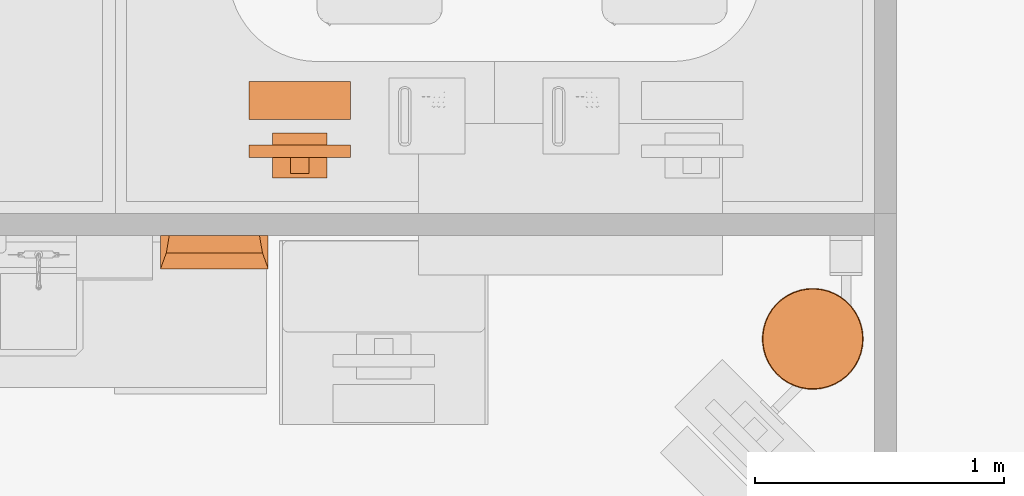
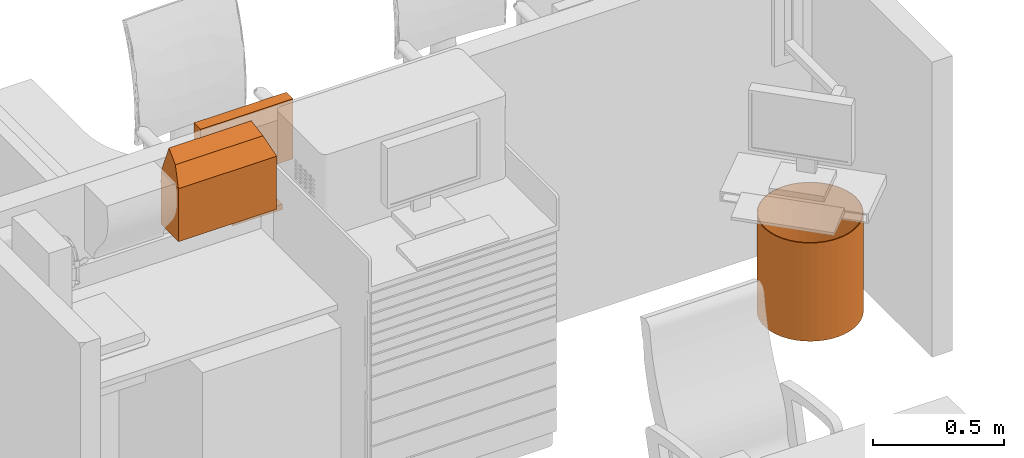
# One storey, part 129 of 142: 3 proxies.
"""IFC2X3 building model written with IfcOpenShell, lengths in feet."""

from ifc_helpers import new_model, entity, si_unit, converted_unit, derived_unit, direction, frame, frame_2d, origin, place, context, subcontext, project, spatial, circle, hollow_circle, extrude, faceted_brep, source, transform, mapped, type_object, type_shapes, element, save


model = new_model("IFC2X3")

# Units and contexts
model_context = context("Model", 3, precision=0.0001, world=origin(), true_north=direction((6.12303176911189e-17, 1.0)))
body_context = subcontext(model_context, "Body", "Model", "MODEL_VIEW")
ifc_project = project(units=[converted_unit("LENGTHUNIT", "FOOT", entity("IfcRatioMeasure", 0.3048), si_unit("LENGTHUNIT", "METRE"), dimensions=[1, 0, 0, 0, 0, 0, 0]), converted_unit("AREAUNIT", "SQUARE FOOT", entity("IfcRatioMeasure", 0.09290304), si_unit("AREAUNIT", "SQUARE_METRE"), dimensions=[2, 0, 0, 0, 0, 0, 0]), converted_unit("VOLUMEUNIT", "CUBIC FOOT", entity("IfcRatioMeasure", 0.028316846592), si_unit("VOLUMEUNIT", "CUBIC_METRE"), dimensions=[3, 0, 0, 0, 0, 0, 0]), converted_unit("PLANEANGLEUNIT", "DEGREE", entity("IfcRatioMeasure", 0.0174532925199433), si_unit("PLANEANGLEUNIT", "RADIAN"), dimensions=[0, 0, 0, 0, 0, 0, 0]), si_unit("MASSUNIT", "GRAM", prefix="KILO"), derived_unit("MASSDENSITYUNIT", [(si_unit("MASSUNIT", "GRAM", prefix="KILO"), 1), (si_unit("LENGTHUNIT", "METRE"), -3)]), si_unit("TIMEUNIT", "SECOND"), si_unit("FREQUENCYUNIT", "HERTZ"), si_unit("THERMODYNAMICTEMPERATUREUNIT", "DEGREE_CELSIUS"), derived_unit("THERMALTRANSMITTANCEUNIT", [(si_unit("MASSUNIT", "GRAM", prefix="KILO"), 1), (si_unit("THERMODYNAMICTEMPERATUREUNIT", "KELVIN"), -1), (si_unit("TIMEUNIT", "SECOND"), -3)]), derived_unit("VOLUMETRICFLOWRATEUNIT", [(si_unit("LENGTHUNIT", "METRE"), 3), (si_unit("TIMEUNIT", "SECOND"), -1)]), si_unit("ELECTRICCURRENTUNIT", "AMPERE"), si_unit("ELECTRICVOLTAGEUNIT", "VOLT"), si_unit("POWERUNIT", "WATT"), si_unit("FORCEUNIT", "NEWTON"), si_unit("ILLUMINANCEUNIT", "LUX"), si_unit("LUMINOUSFLUXUNIT", "LUMEN"), si_unit("LUMINOUSINTENSITYUNIT", "CANDELA"), derived_unit("USERDEFINED", [(si_unit("MASSUNIT", "GRAM", prefix="KILO"), -1), (si_unit("LENGTHUNIT", "METRE"), -2), (si_unit("TIMEUNIT", "SECOND"), 3), (si_unit("LUMINOUSFLUXUNIT", "LUMEN"), 1)]), derived_unit("LINEARVELOCITYUNIT", [(si_unit("LENGTHUNIT", "METRE"), 1), (si_unit("TIMEUNIT", "SECOND"), -1)]), si_unit("PRESSUREUNIT", "PASCAL"), derived_unit("USERDEFINED", [(si_unit("LENGTHUNIT", "METRE"), -2), (si_unit("MASSUNIT", "GRAM", prefix="KILO"), 1), (si_unit("TIMEUNIT", "SECOND"), -2)])], contexts=[model_context])

# Site, building, storey, space
site_placement = place(None, origin())
site = spatial("IfcSite", under=ifc_project, at=site_placement, Name="Default", CompositionType="ELEMENT")
building_placement = place(site_placement, origin())
building = spatial("IfcBuilding", under=site, at=building_placement, Name="OUTPATIENT / PACT CLINIC (Ch. 265)", CompositionType="ELEMENT")
storey_placement = place(building_placement, origin())
storey = spatial("IfcBuildingStorey", under=building, at=storey_placement, Name="LEVEL 1", CompositionType="ELEMENT", Elevation=0.0)
space_1_placement = place(storey_placement, origin())
space_1 = spatial("IfcSpace", under=storey, at=space_1_placement, Name="WRTM1", CompositionType="ELEMENT", InteriorOrExteriorSpace="INTERNAL")

# Proxy
building_element_proxy_type_1 = type_object("IfcBuildingElementProxyType", Name="M1801 - Computer with Flat Panel Monitor", PredefinedType="NOTDEFINED")
shared_shape_1 = source(origin(), body_context, "Body", "Brep", [
    faceted_brep([(0.666666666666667, 0.5625, 0.0), (0.666666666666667, 0.5625, 0.0416666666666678), (0.666666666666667, 0.0624999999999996, 0.0833333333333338), (0.666666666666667, 0.0624999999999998, 0.0), (-0.666666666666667, 0.5625, 0.0), (-0.666666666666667, 0.0624999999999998, 0.0), (-0.666666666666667, 0.0624999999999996, 0.0833333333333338), (-0.666666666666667, 0.5625, 0.0416666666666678)], [[[0, 1, 2, 3]], [[4, 5, 6, 7]], [[3, 5, 4, 0]], [[2, 6, 5, 3]], [[1, 7, 6, 2]], [[0, 4, 7, 1]]]),
    faceted_brep([(0.666666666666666, -0.437223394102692, 1.41666666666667), (0.666666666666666, -0.271109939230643, 1.41666666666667), (-0.666666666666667, -0.271109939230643, 1.41666666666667), (-0.666666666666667, -0.437223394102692, 1.41666666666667), (0.666666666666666, -0.437223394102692, 0.500000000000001), (-0.666666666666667, -0.437223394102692, 0.500000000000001), (-0.666666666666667, -0.271109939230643, 0.500000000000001), (0.666666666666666, -0.271109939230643, 0.500000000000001), (-0.625, -0.271109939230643, 1.375), (-0.625, -0.271109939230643, 0.541666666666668), (0.625, -0.271109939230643, 0.541666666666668), (0.625, -0.271109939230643, 1.375), (0.625, -0.286812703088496, 1.375), (-0.625, -0.286812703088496, 1.375), (0.625, -0.286812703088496, 0.541666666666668), (-0.625, -0.286812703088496, 0.541666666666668)], [[[0, 1, 2, 3]], [[4, 5, 6, 7]], [[3, 5, 4, 0]], [[2, 6, 5, 3]], [[8, 9, 10, 11], [1, 7, 6, 2]], [[0, 4, 7, 1]], [[12, 13, 8, 11]], [[14, 10, 9, 15]], [[12, 14, 15, 13]], [[13, 15, 9, 8]], [[11, 10, 14, 12]]], outer=[[True], [True], [True], [True], [False, True], [True], [True], [True], [True], [True], [True]]),
    faceted_brep([(0.358011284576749, -0.111770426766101, 0.0833333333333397), (0.358011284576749, -0.708333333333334, 0.0833333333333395), (0.358011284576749, -0.708333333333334, 0.0), (0.358011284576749, -0.111770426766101, 0.0), (-0.358011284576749, -0.708333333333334, 0.0833333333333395), (-0.358011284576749, -0.111770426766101, 0.0833333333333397), (-0.358011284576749, -0.111770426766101, 0.0), (-0.358011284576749, -0.708333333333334, 0.0), (0.12128795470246, -0.645556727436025, 0.104166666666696), (-0.12128795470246, -0.645556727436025, 0.104166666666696), (-0.12128795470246, -0.645556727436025, 0.0833333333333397), (0.12128795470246, -0.645556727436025, 0.0833333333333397), (0.12128795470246, -0.645556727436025, 0.958333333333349), (-0.12128795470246, -0.645556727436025, 0.958333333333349), (0.12128795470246, -0.437223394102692, 0.958333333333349), (-0.12128795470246, -0.437223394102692, 0.958333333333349), (0.12128795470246, -0.437223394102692, 0.791666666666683), (-0.12128795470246, -0.437223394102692, 0.791666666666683), (0.12128795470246, -0.562223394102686, 0.791666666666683), (-0.12128795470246, -0.562223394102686, 0.791666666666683), (0.12128795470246, -0.562223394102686, 0.0833333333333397), (-0.12128795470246, -0.562223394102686, 0.0833333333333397)], [[[0, 1, 2, 3]], [[4, 5, 6, 7]], [[8, 9, 10, 11]], [[12, 13, 9, 8]], [[14, 15, 13, 12]], [[16, 17, 15, 14]], [[18, 19, 17, 16]], [[20, 21, 19, 18]], [[11, 10, 21, 20], [0, 5, 4, 1]], [[3, 6, 5, 0]], [[2, 7, 6, 3]], [[1, 4, 7, 2]], [[20, 18, 16, 14, 12, 8, 11]], [[10, 9, 13, 15, 17, 19, 21]]], outer=[[True], [True], [True], [True], [True], [True], [True], [True], [False, True], [True], [True], [True], [True], [True]]),
])
type_shapes(building_element_proxy_type_1, [shared_shape_1])
proxy_1_placement = place(space_1_placement, frame((421.794814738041, -888.24701739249, 2.49999999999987)))
element("IfcBuildingElementProxy", 1, at=proxy_1_placement, inside=space_1, type_object=building_element_proxy_type_1, Name="M1801 - Computer with Flat Panel Monitor:M1801 - Computer with Flat Panel Monitor", ObjectType="M1801 - Computer with Flat Panel Monitor", context=body_context, shape_type="MappedRepresentation", body=[
    mapped(shared_shape_1, transform((0.0, 0.0, 0.0), scale=1.0)),
])

# Space
space_2_placement = place(storey_placement, origin())
space_2 = spatial("IfcSpace", under=storey, at=space_2_placement, Name="RCA06", CompositionType="ELEMENT", InteriorOrExteriorSpace="INTERNAL")

# Proxies
building_element_proxy_type_2 = type_object("IfcBuildingElementProxyType", Name="F2000 - Basket, Wastepaper", PredefinedType="NOTDEFINED")
shared_shape_2 = source(origin(), body_context, "Body", "SweptSolid", [
    extrude(circle(Radius=0.666666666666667, at=frame_2d((0.0, -1.07702971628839e-15), x_axis=(1.0, 0.0))), origin(), (0.0, 0.0, 1.0), 0.0104166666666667),
    extrude(hollow_circle(Radius=0.666666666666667, WallThickness=0.0104166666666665, at=frame_2d((0.0, -1.07702971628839e-15), x_axis=(1.0, 0.0))), frame((0.0, 0.0, 0.0104166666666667)), (0.0, 0.0, 1.0), 1.48958333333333),
])
type_shapes(building_element_proxy_type_2, [shared_shape_2])
proxy_2_placement = place(space_2_placement, frame((428.546783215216, -891.070663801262, 0.0)))
element("IfcBuildingElementProxy", 2, at=proxy_2_placement, inside=space_2, type_object=building_element_proxy_type_2, Name="F2000 - Basket, Wastepaper:F2000 - Basket, Wastepaper", ObjectType="F2000 - Basket, Wastepaper", context=body_context, shape_type="MappedRepresentation", body=[
    mapped(shared_shape_2, transform((0.0, 0.0, 0.0), scale=1.0)),
])
building_element_proxy_type_3 = type_object("IfcBuildingElementProxyType", Name="A5108 - Waste Disposal Unit, Sharps 17\"x 13\"", PredefinedType="NOTDEFINED")
shared_shape_3 = source(origin(), body_context, "Body", "Brep", [
    faceted_brep([(0.70833333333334, 0.0, 0.0), (-0.708333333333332, 0.0, 0.0), (-0.708333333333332, 0.437500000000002, 0.0), (0.70833333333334, 0.437500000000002, 0.0), (0.70833333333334, 0.437500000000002, 0.810989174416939), (0.70833333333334, 0.0025667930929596, 0.810989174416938), (0.70833333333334, 0.0, 0.808422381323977), (-0.708333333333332, 0.437500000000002, 0.810989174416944), (-0.594042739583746, 0.437500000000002, 1.125), (0.594042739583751, 0.437500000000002, 1.125), (-0.708333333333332, 0.0, 0.808422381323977), (-0.708333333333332, 0.00256679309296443, 0.810989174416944), (0.632497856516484, 0.210923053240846, 1.01934543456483), (-0.632497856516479, 0.210923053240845, 1.01934543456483)], [[[0, 1, 2, 3]], [[0, 3, 4, 5, 6]], [[3, 2, 7, 8, 9, 4]], [[2, 1, 10, 11, 7]], [[1, 0, 6, 10]], [[10, 6, 5, 12, 13, 11]], [[12, 9, 8, 13]], [[5, 4, 9, 12]], [[8, 7, 11, 13]]]),
])
type_shapes(building_element_proxy_type_3, [shared_shape_3])
proxy_3_placement = place(storey_placement, frame((420.672108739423, -890.149658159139, 3.5)))
element("IfcBuildingElementProxy", 3, at=proxy_3_placement, inside=storey, type_object=building_element_proxy_type_3, Name="A5108 - Waste Disposal Unit, Sharps1:A5108 - Waste Disposal Unit, Sharps 17\"x 13\"", ObjectType="A5108 - Waste Disposal Unit, Sharps 17\"x 13\"", context=body_context, shape_type="MappedRepresentation", body=[
    mapped(shared_shape_3, transform((0.0, 0.0, 0.0), scale=1.0)),
])

save(model, "model.ifc")
